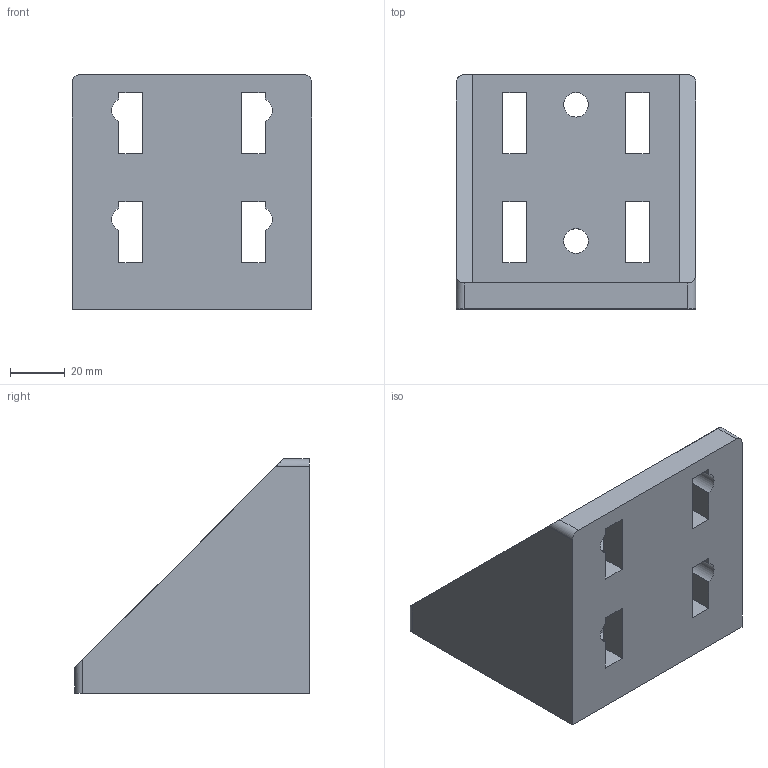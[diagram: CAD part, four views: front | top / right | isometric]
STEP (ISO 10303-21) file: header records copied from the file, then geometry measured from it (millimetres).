
FILE_DESCRIPTION(/* description */ (''),/* implementation_level */ '2;1');
FILE_NAME(/* name */ 'TRAYLOADER.112.stp',/* time_stamp */ '2025-05-19T14:55:35+02:00',/* author */ (''),/* organization */ (''),/* preprocessor_version */ 'ST-DEVELOPER v19.4',/* originating_system */ 'SIEMENS PLM Software NX2306.5001',/* authorisation */ '');
FILE_SCHEMA (('AP203_CONFIGURATION_CONTROLLED_3D_DESIGN_OF_MECHANICAL_PARTS_AND_ASSEMBLIES_MIM_LF { 1 0 10303 403 2 1 2}'));
Length unit declared in the file: millimetre
Products named in the file (1): TRAYLOADER.112_dwg_objects
Bounding box: 88 x 86 x 86 mm (x, y, z)
Volume: 154204.9 mm3; surface area: 46309.8 mm2
Topology: 1 solids, 1 shells, 58 faces, 164 edges, 108 vertices
Faces by surface type: plane 48, cylinder 10
Full cylindrical faces by diameter (mm): 9 x2
Entity records: 1972 total; most frequent: CARTESIAN_POINT 329, ORIENTED_EDGE 324, DIRECTION 300, EDGE_CURVE 162, LINE 142, VECTOR 142, VERTEX_POINT 108, EDGE_LOOP 80
